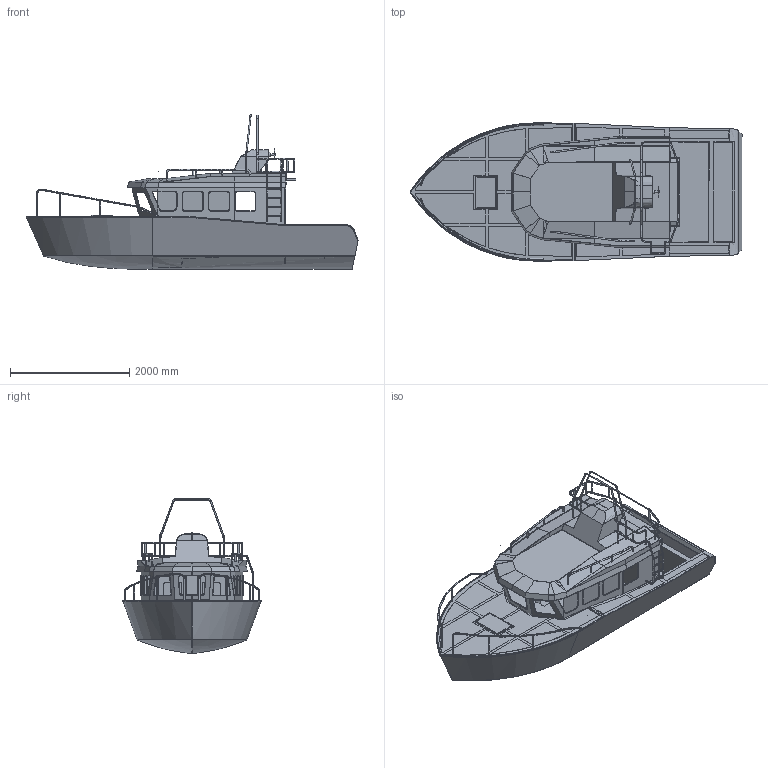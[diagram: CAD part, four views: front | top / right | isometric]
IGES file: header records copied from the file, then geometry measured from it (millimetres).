
Global section: file name: C:\Users\AMIT NEMADE\Desktop\Boat.igs; native system: NX V10.0; preprocessor: SIEMENS PLM Software NX 10.0; date: 20190912.053458; units: millimetre
Bounding box: 5561 x 2318.97 x 2595.35 mm (x, y, z)
Surface area: 92206648.2 mm2 (no closed solid volume)
Topology: 0 solids, 0 shells, 1230 faces, 9210 edges, 9147 vertices
Faces by surface type: bspline 1180, offset 50
